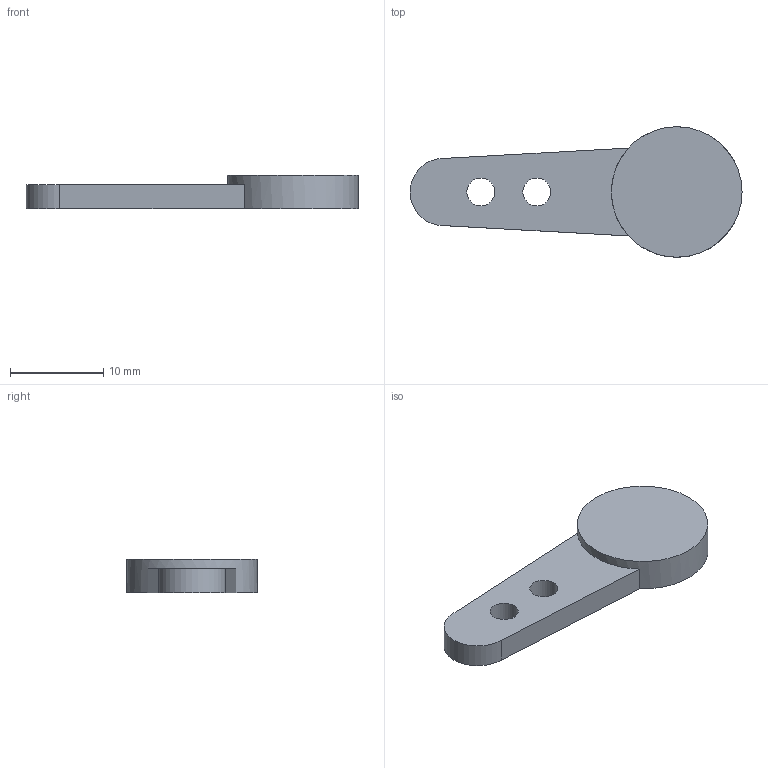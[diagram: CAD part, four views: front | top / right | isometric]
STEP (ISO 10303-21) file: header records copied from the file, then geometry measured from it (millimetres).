
FILE_DESCRIPTION(('FreeCAD Model'),'2;1');
FILE_NAME('Open CASCADE Shape Model','2026-11-08T23:31:29',('FreeCAD'),( 'FreeCAD'),'Open CASCADE STEP processor 7.8','FreeCAD','Unknown');
FILE_SCHEMA(('AUTOMOTIVE_DESIGN { 1 0 10303 214 1 1 1 1 }'));
Length unit declared in the file: millimetre
Products named in the file (1): Open CASCADE STEP translator 7.8 11
Bounding box: 35.6 x 14 x 3.6 mm (x, y, z)
Volume: 968 mm3; surface area: 939.3 mm2
Topology: 1 solids, 1 shells, 9 faces, 21 edges, 14 vertices
Faces by surface type: plane 5, cylinder 4
Full cylindrical faces by diameter (mm): 3 x2, 14 x1
Entity records: 283 total; most frequent: DIRECTION 51, CARTESIAN_POINT 45, ORIENTED_EDGE 42, EDGE_CURVE 21, AXIS2_PLACEMENT_3D 20, VERTEX_POINT 14, FACE_BOUND 13, EDGE_LOOP 13
